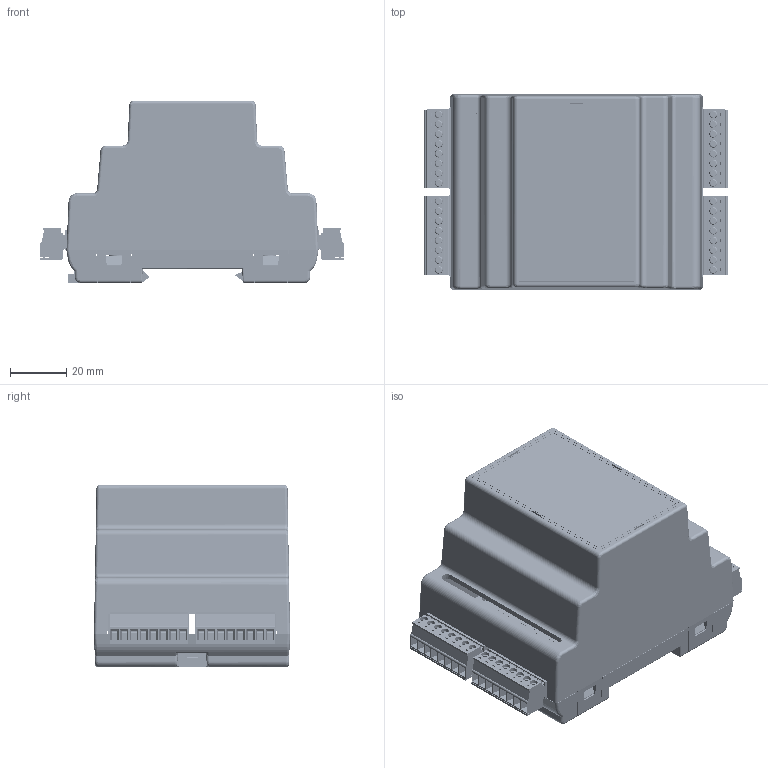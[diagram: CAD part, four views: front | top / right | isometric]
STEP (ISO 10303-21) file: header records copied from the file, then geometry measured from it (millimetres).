
FILE_DESCRIPTION(/* description */ ('','CAx-IF Rec.Pracs.---Representation and Presentation of Product Manufacturing Information (PMI)---3.8---2014-02-18'),/* implementation_level */ '2;1');
FILE_NAME(/* name */ 'C:\Users\user\Desktop\OP-1015 (KW-11m i KW-12m).stp',/* time_stamp */ '2024-09-09T08:51:37+02:00',/* author */ ('user'),/* organization */ (''),/* preprocessor_version */ 'ST-DEVELOPER v16.13',/* originating_system */ 'Autodesk Inventor 2018',/* authorisation */ '');
FILE_SCHEMA (('AP242_MANAGED_MODEL_BASED_3D_ENGINEERING_MIM_LF { 1 0 10303 442 1 1 4 }'));
Products named in the file (48): OP-1015; OP-1015_A; OP-1015-B_1; OP-1015_D; OP-1015_E; OP-267-D; OP-1015_naklejka-02; S_023.05.000.00058/...061; ST-1007_2_0_F; PCB Component; Board; FIDUCIAL_G10; FIDUCIAL_P10; TSOT6; C1206; SOD80C; R0805; C0805; SMA_A; WE-TPC_5818_5828; C1206 (1); BSMD-S; SMB_A; CSV-E_F; SOT23; SMD_4_WS_1; R0603; C0805 (1); E2,5-6; C0603; R0603 (1); 2X02; SO08; R1206; QSG8M; TQFP64_1; 1X12; 15EDG-3.5-8P(H-Vwt); 15EDGRC-3.5; 15EDGRC-3.5_1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
Assembly tree (137 placements, depth 6):
  OP-1015
    OP-1015_A
    OP-1015-B_1
    OP-1015_D
    OP-1015_E
    OP-267-D
    OP-1015_naklejka-02
    S_023.05.000.00058/...061  x4
    ST-1007_2_0_F
      PCB Component
        Board
        FIDUCIAL_G10  x2
        FIDUCIAL_P10  x2
        TSOT6
        C1206  x2
        SOD80C
        R0805  x22
        C0805  x2
        SMA_A
        WE-TPC_5818_5828
        C1206 (1)
        BSMD-S
        SMB_A
        CSV-E_F  x2
        SOT23
        SMD_4_WS_1  x4
        R0603  x4
        C0805 (1)  x8
        E2,5-6  x8
        C0603  x9
        R0603 (1)
        2X02
        SO08
        R1206  x2
        QSG8M
        TQFP64_1
        1X12
        15EDG-3.5-8P(H-Vwt)  x4
          15EDGRC-3.5
            15EDGRC-3.5_1
            15EDGRC-3.5-PIN  x8
            15EDGRC-3.5-thickening  x2
          15EDGK-3.5
            15EDGK-3.5_klamper  x8
            15EDGK-3.5_screw  x8
            15EDGK-3.5_spring  x8
            15EDGK-3.5_1
            15EDGK-3.5_top-cap
Bounding box: 108.58 x 70 x 65.06 mm (x, y, z)
Volume: 77198.5 mm3; surface area: 125140.3 mm2
Topology: 240 solids, 240 shells, 15601 faces, 42468 edges, 28002 vertices
Faces by surface type: plane 11384, bspline 2404, cylinder 1431, cone 200, torus 112, sphere 70
Full cylindrical faces by diameter (mm): 0.406 x22, 0.5 x253, 0.813 x16, 0.85 x4, 1.016 x12, 1.2 x32, 1.3 x32, 1.5 x32, 1.8 x64, 2 x64, 2.78 x32, 2.8 x32, 2.9 x4, 3 x8
Entity records: 156817 total; most frequent: CARTESIAN_POINT 46022, ORIENTED_EDGE 21860, DIRECTION 20012, EDGE_CURVE 10930, LINE 7976, VECTOR 7976, VERTEX_POINT 7510, AXIS2_PLACEMENT_3D 6184
